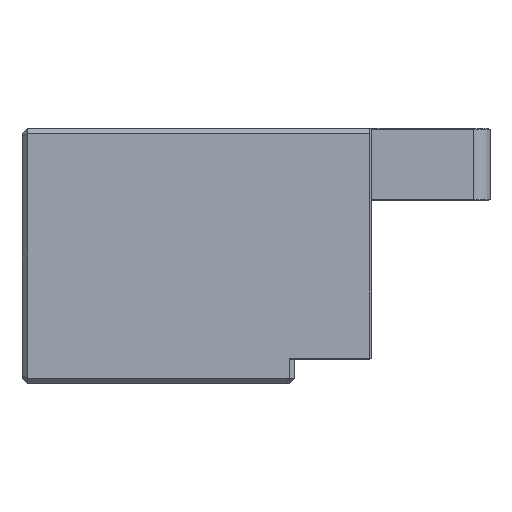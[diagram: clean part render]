
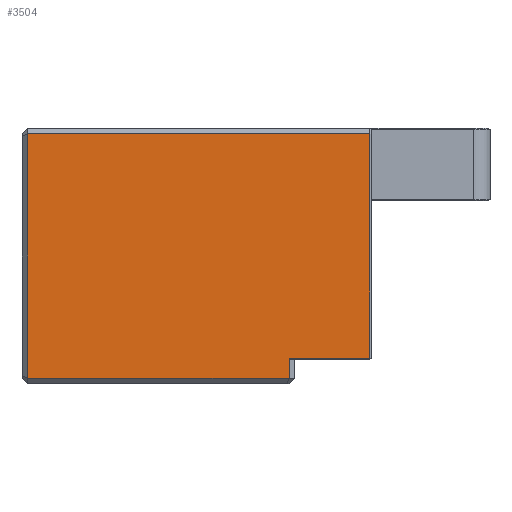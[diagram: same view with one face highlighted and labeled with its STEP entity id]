
A CAD part, left-side view. The second image highlights one B-rep face of the part: STEP entity #3504.
In plain terms, the highlighted planar face has unit normal (-1, 0, 0).
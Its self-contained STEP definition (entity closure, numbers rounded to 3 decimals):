
#263 = VECTOR ( 'NONE', #4096, 1000. ) ;
#367 = ORIENTED_EDGE ( 'NONE', *, *, #1248, .T. ) ;
#1005 = EDGE_CURVE ( 'NONE', #7251, #7248, #12549, .T. ) ;
#1211 = CARTESIAN_POINT ( 'NONE',  ( -79.5, -16.5, -41. ) ) ;
#1248 = EDGE_CURVE ( 'NONE', #1907, #1459, #7362, .T. ) ;
#1459 = VERTEX_POINT ( 'NONE', #4065 ) ;
#1631 = DIRECTION ( 'NONE',  ( 0., 1., 0. ) ) ;
#1907 = VERTEX_POINT ( 'NONE', #1211 ) ;
#2036 = CARTESIAN_POINT ( 'NONE',  ( -79.5, -16.5, -41.2 ) ) ;
#2263 = VECTOR ( 'NONE', #12082, 1000. ) ;
#2370 = EDGE_CURVE ( 'NONE', #1459, #7251, #11575, .T. ) ;
#3039 = PLANE ( 'NONE',  #4663 ) ;
#3068 = CARTESIAN_POINT ( 'NONE',  ( -79.5, -16.5, -44.6 ) ) ;
#3504 = ADVANCED_FACE ( 'NONE', ( #3672 ), #3039, .T. ) ;
#3672 = FACE_OUTER_BOUND ( 'NONE', #7811, .T. ) ;
#3695 = VERTEX_POINT ( 'NONE', #6217 ) ;
#3811 = VECTOR ( 'NONE', #6155, 1000. ) ;
#3961 = CARTESIAN_POINT ( 'NONE',  ( -79.5, -30.9, -45.6 ) ) ;
#4060 = DIRECTION ( 'NONE',  ( -1., 0., 0. ) ) ;
#4065 = CARTESIAN_POINT ( 'NONE',  ( -79.5, -30.9, -41. ) ) ;
#4066 = EDGE_CURVE ( 'NONE', #7248, #3695, #12024, .T. ) ;
#4096 = DIRECTION ( 'NONE',  ( 0., 0., 1. ) ) ;
#4625 = ORIENTED_EDGE ( 'NONE', *, *, #8334, .T. ) ;
#4663 = AXIS2_PLACEMENT_3D ( 'NONE', #8922, #4060, #10968 ) ;
#5211 = VECTOR ( 'NONE', #11137, 1000. ) ;
#5216 = ORIENTED_EDGE ( 'NONE', *, *, #9842, .T. ) ;
#5353 = ORIENTED_EDGE ( 'NONE', *, *, #1005, .T. ) ;
#5694 = VERTEX_POINT ( 'NONE', #9468 ) ;
#6155 = DIRECTION ( 'NONE',  ( 0., -1., 0. ) ) ;
#6212 = ORIENTED_EDGE ( 'NONE', *, *, #2370, .T. ) ;
#6217 = CARTESIAN_POINT ( 'NONE',  ( -79.5, 30.1, -44.6 ) ) ;
#6805 = LINE ( 'NONE', #2036, #5211 ) ;
#7248 = VERTEX_POINT ( 'NONE', #10505 ) ;
#7251 = VERTEX_POINT ( 'NONE', #9386 ) ;
#7362 = LINE ( 'NONE', #8008, #10504 ) ;
#7811 = EDGE_LOOP ( 'NONE', ( #5216, #367, #6212, #5353, #8737, #4625 ) ) ;
#8008 = CARTESIAN_POINT ( 'NONE',  ( -79.5, -30.9, -41. ) ) ;
#8334 = EDGE_CURVE ( 'NONE', #3695, #5694, #11079, .T. ) ;
#8737 = ORIENTED_EDGE ( 'NONE', *, *, #4066, .T. ) ;
#8922 = CARTESIAN_POINT ( 'NONE',  ( -79.5, 31.1, -45.6 ) ) ;
#9386 = CARTESIAN_POINT ( 'NONE',  ( -79.5, -30.9, -1. ) ) ;
#9468 = CARTESIAN_POINT ( 'NONE',  ( -79.5, -16.5, -44.6 ) ) ;
#9842 = EDGE_CURVE ( 'NONE', #5694, #1907, #6805, .T. ) ;
#10000 = DIRECTION ( 'NONE',  ( 0., -1., 0. ) ) ;
#10504 = VECTOR ( 'NONE', #10000, 1000. ) ;
#10505 = CARTESIAN_POINT ( 'NONE',  ( -79.5, 30.1, -1. ) ) ;
#10818 = VECTOR ( 'NONE', #1631, 1000. ) ;
#10968 = DIRECTION ( 'NONE',  ( 0., -1., 0. ) ) ;
#11079 = LINE ( 'NONE', #3068, #3811 ) ;
#11137 = DIRECTION ( 'NONE',  ( 0., 0., 1. ) ) ;
#11575 = LINE ( 'NONE', #3961, #263 ) ;
#11642 = CARTESIAN_POINT ( 'NONE',  ( -79.5, 31.1, -1. ) ) ;
#12024 = LINE ( 'NONE', #12039, #2263 ) ;
#12039 = CARTESIAN_POINT ( 'NONE',  ( -79.5, 30.1, -45.6 ) ) ;
#12082 = DIRECTION ( 'NONE',  ( 0., 0., -1. ) ) ;
#12549 = LINE ( 'NONE', #11642, #10818 ) ;
